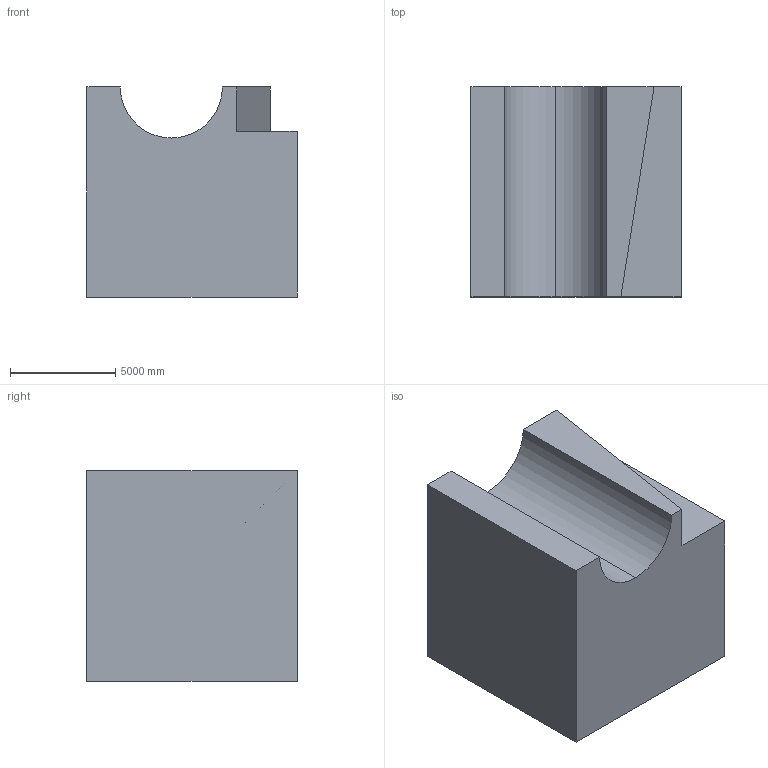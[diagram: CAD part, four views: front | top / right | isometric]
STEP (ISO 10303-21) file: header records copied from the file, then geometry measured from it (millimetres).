
FILE_DESCRIPTION (( 'STEP AP203' ), '1' );
FILE_NAME ('1078.STEP', '2022-08-18T12:40:21', ( 'user' ), ( '' ), 'SwSTEP 2.0', 'SolidWorks 2021', '' );
FILE_SCHEMA (( 'CONFIG_CONTROL_DESIGN' ));
Length unit declared in the file: centimetre
Products named in the file (1): 1078
Bounding box: 10000 x 10000 x 10000 mm (x, y, z)
Volume: 863395095463.2 mm3; surface area: 600701538.3 mm2
Topology: 1 solids, 1 shells, 11 faces, 27 edges, 18 vertices
Faces by surface type: plane 9, cylinder 2
Entity records: 402 total; most frequent: CARTESIAN_POINT 57, DIRECTION 55, ORIENTED_EDGE 54, EDGE_CURVE 27, LINE 23, VECTOR 23, VERTEX_POINT 18, AXIS2_PLACEMENT_3D 16
